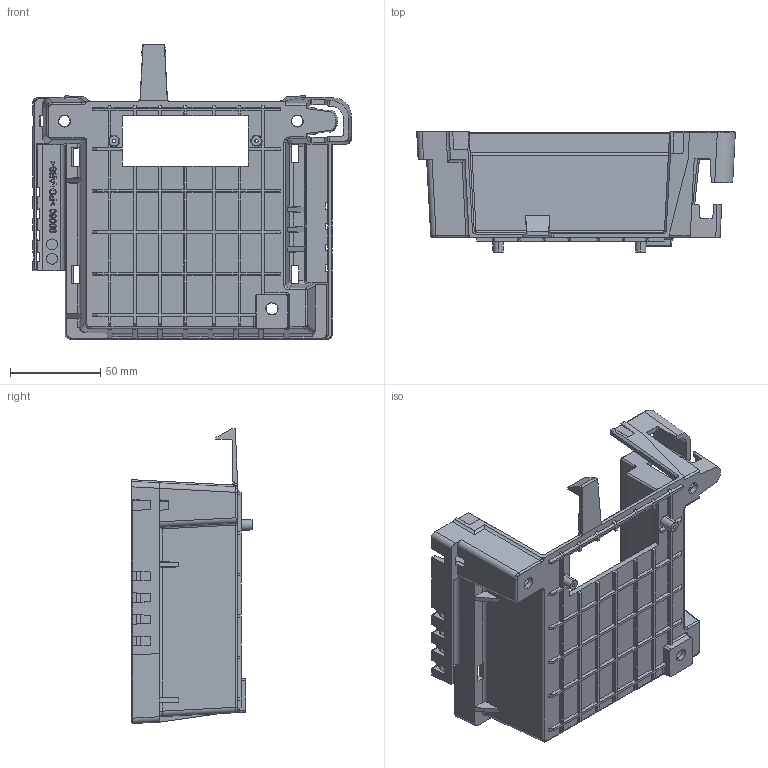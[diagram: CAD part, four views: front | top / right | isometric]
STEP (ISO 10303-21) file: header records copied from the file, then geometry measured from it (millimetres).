
FILE_DESCRIPTION (( 'STEP AP214' ), '1' );
FILE_NAME ('10043V000_Akku_Ablage_Index_2.STEP', '2014-05-23T08:33:12', ( 'Admin' ), ( '' ), 'SwSTEP 2.0', 'SolidWorks 2014', '' );
FILE_SCHEMA (( 'AUTOMOTIVE_DESIGN' ));
Length unit declared in the file: millimetre
Products named in the file (1): 10043V000_Akku_Ablage_Index_2
Bounding box: 176.54 x 66.5 x 163.47 mm (x, y, z)
Volume: 140607.3 mm3; surface area: 100511.2 mm2
Topology: 1 solids, 1 shells, 983 faces, 2670 edges, 1681 vertices
Faces by surface type: plane 576, cylinder 209, bspline 158, cone 21, sphere 18, torus 1
Entity records: 40353 total; most frequent: CARTESIAN_POINT 14217, ORIENTED_EDGE 5296, DIRECTION 3966, EDGE_CURVE 2648, VECTOR 1886, LINE 1886, VERTEX_POINT 1681, AXIS2_PLACEMENT_3D 1040
